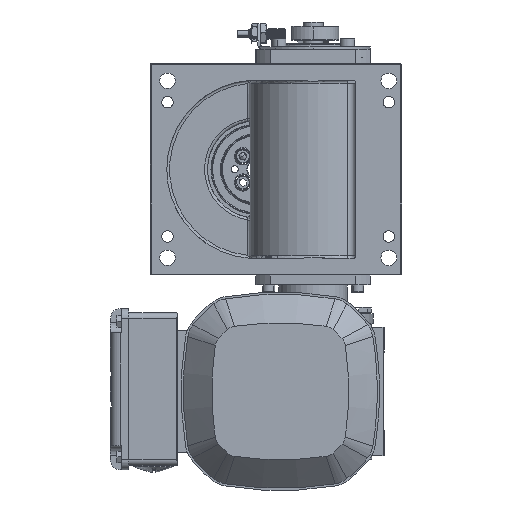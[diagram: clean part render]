
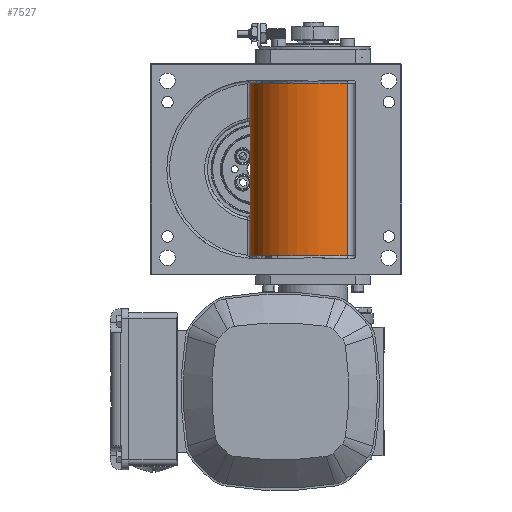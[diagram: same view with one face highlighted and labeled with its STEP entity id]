
A CAD part, front view. The second image highlights one B-rep face of the part: STEP entity #7527.
In plain terms, the highlighted cylindrical face has radius 44 mm (diameter 88 mm), a partial arc.
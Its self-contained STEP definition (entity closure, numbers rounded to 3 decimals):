
#916 = CIRCLE ( 'NONE', #4894, 44. ) ;
#3707 = ORIENTED_EDGE ( 'NONE', *, *, #57050, .T. ) ;
#4297 = CARTESIAN_POINT ( 'NONE',  ( 1.376, -21.238, 101.009 ) ) ;
#4894 = AXIS2_PLACEMENT_3D ( 'NONE', #23677, #55682, #56605 ) ;
#5909 = CIRCLE ( 'NONE', #8990, 44. ) ;
#7527 = ADVANCED_FACE ( 'NONE', ( #56100 ), #41112, .T. ) ;
#7806 = DIRECTION ( 'NONE',  ( 0., 0., -1. ) ) ;
#8910 = CARTESIAN_POINT ( 'NONE',  ( 25.209, -58.224, 103.009 ) ) ;
#8990 = AXIS2_PLACEMENT_3D ( 'NONE', #4297, #42907, #19015 ) ;
#10281 = DIRECTION ( 'NONE',  ( -1., 0., 0. ) ) ;
#11839 = VECTOR ( 'NONE', #7806, 1000. ) ;
#14695 = VECTOR ( 'NONE', #56261, 1000. ) ;
#15798 = VERTEX_POINT ( 'NONE', #20403 ) ;
#15869 = ORIENTED_EDGE ( 'NONE', *, *, #57933, .T. ) ;
#19015 = DIRECTION ( 'NONE',  ( 1., 0., 0. ) ) ;
#19283 = ORIENTED_EDGE ( 'NONE', *, *, #49864, .T. ) ;
#19362 = EDGE_CURVE ( 'NONE', #44208, #41663, #26804, .T. ) ;
#20403 = CARTESIAN_POINT ( 'NONE',  ( -42.624, -21.238, 101.009 ) ) ;
#21921 = LINE ( 'NONE', #41404, #11839 ) ;
#23037 = CARTESIAN_POINT ( 'NONE',  ( -42.624, -21.238, -19.791 ) ) ;
#23677 = CARTESIAN_POINT ( 'NONE',  ( 1.376, -21.238, -19.791 ) ) ;
#24768 = AXIS2_PLACEMENT_3D ( 'NONE', #43876, #29058, #10281 ) ;
#26804 = LINE ( 'NONE', #8910, #14695 ) ;
#29058 = DIRECTION ( 'NONE',  ( 0., 0., -1. ) ) ;
#31041 = CARTESIAN_POINT ( 'NONE',  ( 25.209, -58.224, -19.791 ) ) ;
#41112 = CYLINDRICAL_SURFACE ( 'NONE', #24768, 44. ) ;
#41404 = CARTESIAN_POINT ( 'NONE',  ( -42.624, -21.238, 103.009 ) ) ;
#41663 = VERTEX_POINT ( 'NONE', #54420 ) ;
#42907 = DIRECTION ( 'NONE',  ( 0., 0., -1. ) ) ;
#43876 = CARTESIAN_POINT ( 'NONE',  ( 1.376, -21.238, 103.009 ) ) ;
#44208 = VERTEX_POINT ( 'NONE', #31041 ) ;
#48001 = VERTEX_POINT ( 'NONE', #23037 ) ;
#49864 = EDGE_CURVE ( 'NONE', #48001, #44208, #916, .T. ) ;
#51183 = EDGE_LOOP ( 'NONE', ( #3707, #19283, #55376, #15869 ) ) ;
#54420 = CARTESIAN_POINT ( 'NONE',  ( 25.209, -58.224, 101.009 ) ) ;
#55376 = ORIENTED_EDGE ( 'NONE', *, *, #19362, .T. ) ;
#55682 = DIRECTION ( 'NONE',  ( 0., 0., 1. ) ) ;
#56100 = FACE_OUTER_BOUND ( 'NONE', #51183, .T. ) ;
#56261 = DIRECTION ( 'NONE',  ( 0., 0., 1. ) ) ;
#56605 = DIRECTION ( 'NONE',  ( 1., 0., 0. ) ) ;
#57050 = EDGE_CURVE ( 'NONE', #15798, #48001, #21921, .T. ) ;
#57933 = EDGE_CURVE ( 'NONE', #41663, #15798, #5909, .T. ) ;
